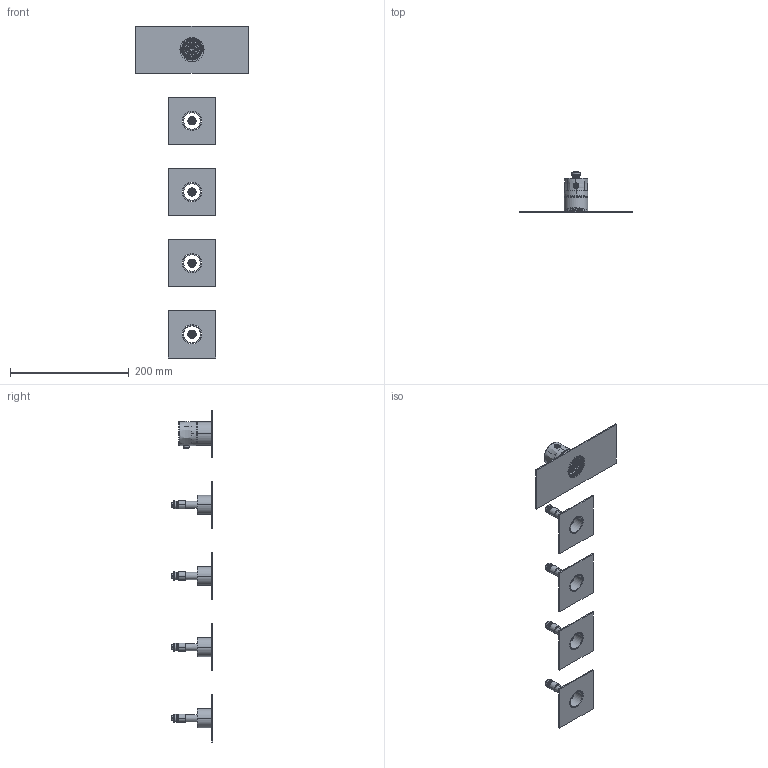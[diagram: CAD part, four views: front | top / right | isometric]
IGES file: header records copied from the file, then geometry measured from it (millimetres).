
Start section:  PTC IGES file: 3d_sw0001.igs
Global section: file name: 3d_sw0001.igs; native system: Creo Parametric by PTC Inc.; preprocessor: 2025443; author: volponeff; organization: Unknown; date: 20260518.105325; units: millimetre
Bounding box: 190 x 70 x 560 mm (x, y, z)
Surface area: 141613.9 mm2 (no closed solid volume)
Topology: 0 solids, 0 shells, 1873 faces, 9522 edges, 9517 vertices
Faces by surface type: bspline 1173, revolution 700
